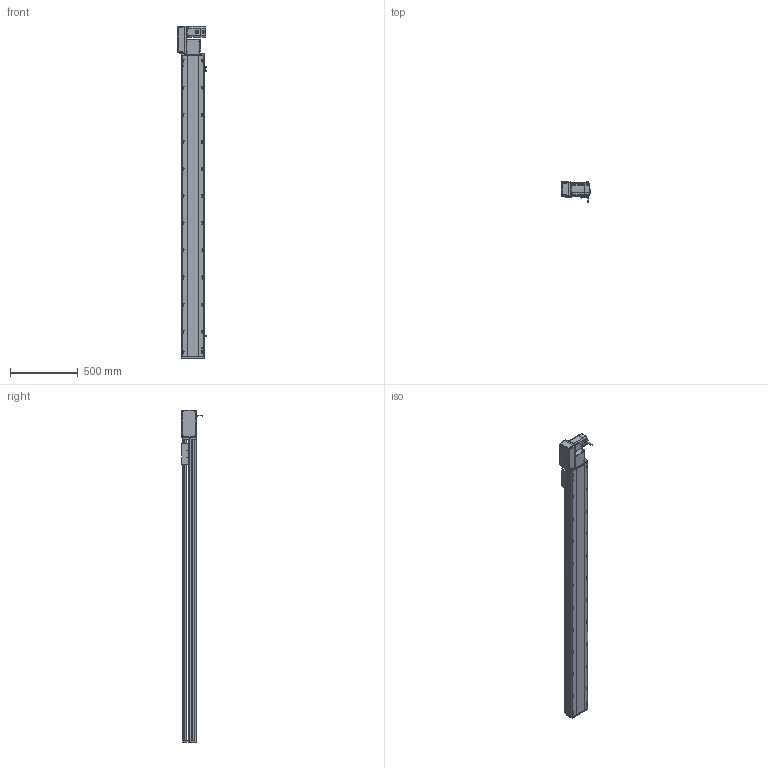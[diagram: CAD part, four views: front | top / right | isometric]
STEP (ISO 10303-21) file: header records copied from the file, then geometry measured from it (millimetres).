
FILE_DESCRIPTION (( 'STEP AP214' ), '1' );
FILE_NAME ('RTB17S-XX-1950-L-M75-C4.STEP', '2025-12-12T00:18:32', ( '' ), ( '' ), 'SwSTEP 2.0', 'SolidWorks 2018', '' );
FILE_SCHEMA (( 'AUTOMOTIVE_DESIGN' ));
Length unit declared in the file: millimetre
Products named in the file (15): RTB22S-GY-018P^RTB17S-L-々湍釱蚾饜-750W_RTB17S-XX-XX-L-M75-C4; RTH13-BL-012覜茼え俋离^RTB17S-賑釱_RTB17S-XX-XX-L-M75-C4; 750W萇儂^RTB17S-XX-XX-L-M75-C4; RMP17S-L-014-T20-P75--々湍釱^RTB17S-L-々湍釱蚾饜-750W_RTB17S-XX-XX-L-M75-C4; RTB22S-GY-005P^RTB17S-L-々湍釱蚾饜-750W_RTB17S-XX-XX-L-M75-C4; RTB17S-L-004-賑釱^RTB17S-賑釱_RTB17S-XX-XX-L-M75-C4; RTB17-R-011菁釱^RTB17S-XX-XX-L-M75-C4; EE672^RTB17S-XX-XX-L-M75-C4; RTB17S-L-々湍釱蚾饜-750W^RTB17S-XX-XX-L-M75-C4; RTB17S-L-001-耜醱啣^RTB17S-XX-XX-L-M75-C4; RTB17S-XX-1950-L-M75-C4; RTB17S-L-007奻裔^RTB17S-XX-XX-L-M75-C4; RTB22S-GY-008-M75--萇儂啣^RTB17S-L-々湍釱蚾饜-750W_RTB17S-XX-XX-L-M75-C4; RTB17S-賑釱^RTB17S-XX-XX-L-M75-C4; RTB22S-GY-017P^RTB17S-L-々湍釱蚾饜-750W_RTB17S-XX-XX-L-M75-C4
Assembly tree (17 placements, depth 3):
  RTB17S-XX-1950-L-M75-C4
    RTB17-R-011菁釱^RTB17S-XX-XX-L-M75-C4
    EE672^RTB17S-XX-XX-L-M75-C4  x3
    RTB17S-L-001-耜醱啣^RTB17S-XX-XX-L-M75-C4
    RTB17S-賑釱^RTB17S-XX-XX-L-M75-C4
      RTB17S-L-004-賑釱^RTB17S-賑釱_RTB17S-XX-XX-L-M75-C4
      RTH13-BL-012覜茼え俋离^RTB17S-賑釱_RTB17S-XX-XX-L-M75-C4
    RTB17S-L-007奻裔^RTB17S-XX-XX-L-M75-C4
    750W萇儂^RTB17S-XX-XX-L-M75-C4
    RTB17S-L-々湍釱蚾饜-750W^RTB17S-XX-XX-L-M75-C4
      RMP17S-L-014-T20-P75--々湍釱^RTB17S-L-々湍釱蚾饜-750W_RTB17S-XX-XX-L-M75-C4
      RTB22S-GY-005P^RTB17S-L-々湍釱蚾饜-750W_RTB17S-XX-XX-L-M75-C4
      RTB22S-GY-017P^RTB17S-L-々湍釱蚾饜-750W_RTB17S-XX-XX-L-M75-C4  x2
      RTB22S-GY-008-M75--萇儂啣^RTB17S-L-々湍釱蚾饜-750W_RTB17S-XX-XX-L-M75-C4
      RTB22S-GY-018P^RTB17S-L-々湍釱蚾饜-750W_RTB17S-XX-XX-L-M75-C4
Bounding box: 210.4 x 152.7 x 2449 mm (x, y, z)
Volume: 18139740 mm3; surface area: 3237831.8 mm2
Topology: 17 solids, 17 shells, 2169 faces, 6052 edges, 3914 vertices
Faces by surface type: plane 980, cylinder 773, bspline 294, cone 110, sphere 8, torus 4
Entity records: 61942 total; most frequent: CARTESIAN_POINT 18316, ORIENTED_EDGE 8948, DIRECTION 8312, EDGE_CURVE 4474, AXIS2_PLACEMENT_3D 2934, VERTEX_POINT 2918, LINE 2444, VECTOR 2444
